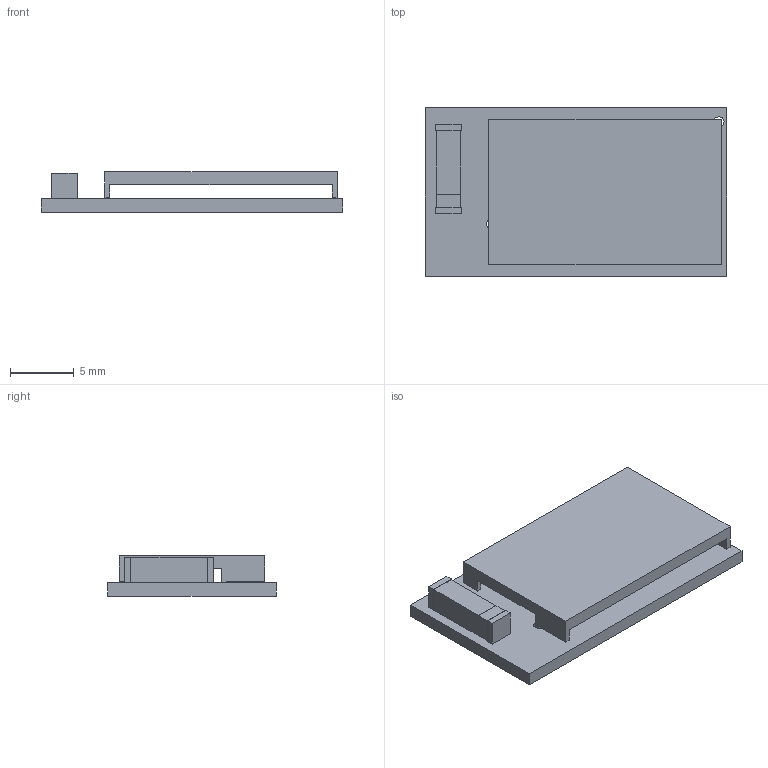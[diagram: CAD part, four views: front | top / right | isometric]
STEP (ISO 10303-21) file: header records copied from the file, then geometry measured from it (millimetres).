
FILE_DESCRIPTION(('Open CASCADE Model'),'2;1');
FILE_NAME('Open CASCADE Shape Model','2013-06-20T15:28:35',('Author'),( 'Open CASCADE'),'Open CASCADE STEP processor 6.2','Open CASCADE 6.2' ,'Unknown');
FILE_SCHEMA(('AUTOMOTIVE_DESIGN { 1 0 10303 214 1 1 1 1 }'));
Length unit declared in the file: millimetre
Products named in the file (6): PCB; Board; SH1; deRFmini_Short-RF-Shielding; ANT1; 28262_SMD_Chip_Antenne
Assembly tree (5 placements, depth 3):
  PCB
    Board
    SH1
      deRFmini_Short-RF-Shielding
    ANT1
      28262_SMD_Chip_Antenne
Bounding box: 23.6 x 13.2 x 3.17 mm (x, y, z)
Volume: 453.4 mm3; surface area: 1297.7 mm2
Topology: 3 solids, 3 shells, 50 faces, 132 edges, 88 vertices
Faces by surface type: plane 48, cylinder 2
Full cylindrical faces by diameter (mm): 0.8 x2
Entity records: 3417 total; most frequent: CARTESIAN_POINT 564, DIRECTION 508, LINE 388, VECTOR 388, ORIENTED_EDGE 264, PCURVE 264, DEFINITIONAL_REPRESENTATION 264, EDGE_CURVE 132
